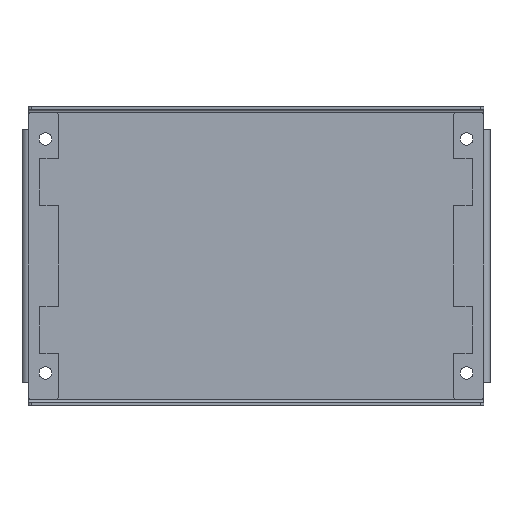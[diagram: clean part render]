
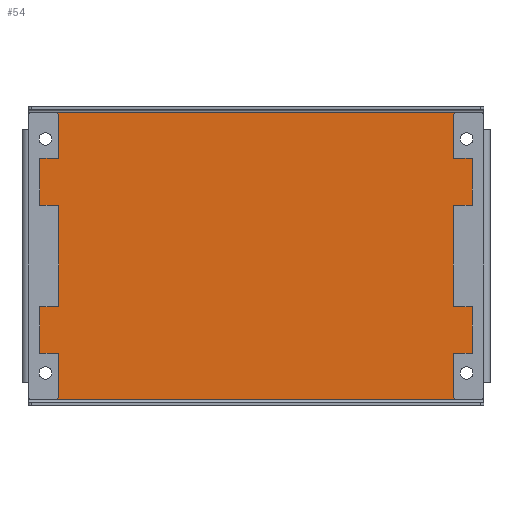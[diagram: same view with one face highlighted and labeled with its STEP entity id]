
A CAD part, top view. The second image highlights one B-rep face of the part: STEP entity #54.
In plain terms, the highlighted planar face has unit normal (0, 0, 1).
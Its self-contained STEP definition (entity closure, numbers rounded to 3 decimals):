
#54=ADVANCED_FACE('',(#186,#188,#190,#192,#194),#196,.T.);
#186=FACE_BOUND('',#187,.T.);
#187=EDGE_LOOP('',(#1129,#1130,#1131,#1132,#1133,#1134,#1135,#1136));
#188=FACE_BOUND('',#189,.T.);
#189=EDGE_LOOP('',(#1137));
#190=FACE_BOUND('',#191,.T.);
#191=EDGE_LOOP('',(#1138));
#192=FACE_BOUND('',#193,.T.);
#193=EDGE_LOOP('',(#1139));
#194=FACE_BOUND('',#195,.T.);
#195=EDGE_LOOP('',(#1140));
#196=PLANE('',#197);
#197=AXIS2_PLACEMENT_3D('',#198,#199,#200);
#198=CARTESIAN_POINT('',(0.,0.,2.));
#199=DIRECTION('',(0.,0.,1.));
#200=DIRECTION('',(1.,0.,0.));
#1129=ORIENTED_EDGE('',*,*,#1689,.T.);
#1130=ORIENTED_EDGE('',*,*,#1690,.T.);
#1131=ORIENTED_EDGE('',*,*,#1691,.T.);
#1132=ORIENTED_EDGE('',*,*,#1692,.T.);
#1133=ORIENTED_EDGE('',*,*,#1693,.T.);
#1134=ORIENTED_EDGE('',*,*,#1694,.T.);
#1135=ORIENTED_EDGE('',*,*,#1695,.T.);
#1136=ORIENTED_EDGE('',*,*,#1696,.T.);
#1137=ORIENTED_EDGE('',*,*,#1697,.T.);
#1138=ORIENTED_EDGE('',*,*,#1698,.T.);
#1139=ORIENTED_EDGE('',*,*,#1699,.T.);
#1140=ORIENTED_EDGE('',*,*,#1700,.T.);
#1689=EDGE_CURVE('',#1981,#1982,#1983,.F.);
#1690=EDGE_CURVE('',#1982,#1984,#1985,.T.);
#1691=EDGE_CURVE('',#1984,#1986,#1987,.F.);
#1692=EDGE_CURVE('',#1986,#1988,#1989,.T.);
#1693=EDGE_CURVE('',#1988,#1990,#1991,.F.);
#1694=EDGE_CURVE('',#1990,#1992,#1993,.T.);
#1695=EDGE_CURVE('',#1992,#1994,#1995,.F.);
#1696=EDGE_CURVE('',#1994,#1981,#1996,.T.);
#1697=EDGE_CURVE('',#1997,#1997,#1998,.T.);
#1698=EDGE_CURVE('',#1999,#1999,#2000,.T.);
#1699=EDGE_CURVE('',#2001,#2001,#2002,.T.);
#1700=EDGE_CURVE('',#2003,#2003,#2004,.T.);
#1981=VERTEX_POINT('',#2473);
#1982=VERTEX_POINT('',#2474);
#1983=LINE('',#2475,#2476);
#1984=VERTEX_POINT('',#2478);
#1985=LINE('',#2479,#2480);
#1986=VERTEX_POINT('',#2482);
#1987=LINE('',#2483,#2484);
#1988=VERTEX_POINT('',#2486);
#1989=LINE('',#2487,#2488);
#1990=VERTEX_POINT('',#2490);
#1991=LINE('',#2491,#2492);
#1992=VERTEX_POINT('',#2494);
#1993=LINE('',#2495,#2496);
#1994=VERTEX_POINT('',#2498);
#1995=LINE('',#2499,#2500);
#1996=LINE('',#2502,#2503);
#1997=VERTEX_POINT('',#2505);
#1998=CIRCLE('',#2506,8.5);
#1999=VERTEX_POINT('',#2510);
#2000=CIRCLE('',#2511,8.5);
#2001=VERTEX_POINT('',#2515);
#2002=CIRCLE('',#2516,8.5);
#2003=VERTEX_POINT('',#2520);
#2004=CIRCLE('',#2521,8.5);
#2473=CARTESIAN_POINT('',(4.,15.,2.));
#2474=CARTESIAN_POINT('',(4.,4.,2.));
#2475=CARTESIAN_POINT('',(4.,4.,2.));
#2476=VECTOR('',#2477,1.);
#2477=DIRECTION('',(0.,1.,0.));
#2478=CARTESIAN_POINT('',(296.,4.,2.));
#2479=CARTESIAN_POINT('',(4.,4.,2.));
#2480=VECTOR('',#2481,1.);
#2481=DIRECTION('',(1.,0.,0.));
#2482=CARTESIAN_POINT('',(296.,15.,2.));
#2483=CARTESIAN_POINT('',(296.,15.,2.));
#2484=VECTOR('',#2485,1.);
#2485=DIRECTION('',(0.,-1.,0.));
#2486=CARTESIAN_POINT('',(296.,177.,2.));
#2487=CARTESIAN_POINT('',(296.,15.,2.));
#2488=VECTOR('',#2489,1.);
#2489=DIRECTION('',(0.,1.,0.));
#2490=CARTESIAN_POINT('',(296.,188.,2.));
#2491=CARTESIAN_POINT('',(296.,188.,2.));
#2492=VECTOR('',#2493,1.);
#2493=DIRECTION('',(0.,-1.,0.));
#2494=CARTESIAN_POINT('',(4.,188.,2.));
#2495=CARTESIAN_POINT('',(296.,188.,2.));
#2496=VECTOR('',#2497,1.);
#2497=DIRECTION('',(-1.,0.,0.));
#2498=CARTESIAN_POINT('',(4.,177.,2.));
#2499=CARTESIAN_POINT('',(4.,177.,2.));
#2500=VECTOR('',#2501,1.);
#2501=DIRECTION('',(0.,1.,0.));
#2502=CARTESIAN_POINT('',(4.,177.,2.));
#2503=VECTOR('',#2504,1.);
#2504=DIRECTION('',(0.,-1.,0.));
#2505=CARTESIAN_POINT('',(23.5,21.,2.));
#2506=AXIS2_PLACEMENT_3D('',#2507,#2508,#2509);
#2507=CARTESIAN_POINT('',(15.,21.,2.));
#2508=DIRECTION('',(0.,0.,-1.));
#2509=DIRECTION('',(1.,0.,0.));
#2510=CARTESIAN_POINT('',(293.5,21.,2.));
#2511=AXIS2_PLACEMENT_3D('',#2512,#2513,#2514);
#2512=CARTESIAN_POINT('',(285.,21.,2.));
#2513=DIRECTION('',(0.,0.,-1.));
#2514=DIRECTION('',(1.,0.,0.));
#2515=CARTESIAN_POINT('',(23.5,171.,2.));
#2516=AXIS2_PLACEMENT_3D('',#2517,#2518,#2519);
#2517=CARTESIAN_POINT('',(15.,171.,2.));
#2518=DIRECTION('',(0.,0.,-1.));
#2519=DIRECTION('',(1.,0.,0.));
#2520=CARTESIAN_POINT('',(293.5,171.,2.));
#2521=AXIS2_PLACEMENT_3D('',#2522,#2523,#2524);
#2522=CARTESIAN_POINT('',(285.,171.,2.));
#2523=DIRECTION('',(0.,0.,-1.));
#2524=DIRECTION('',(1.,0.,0.));
